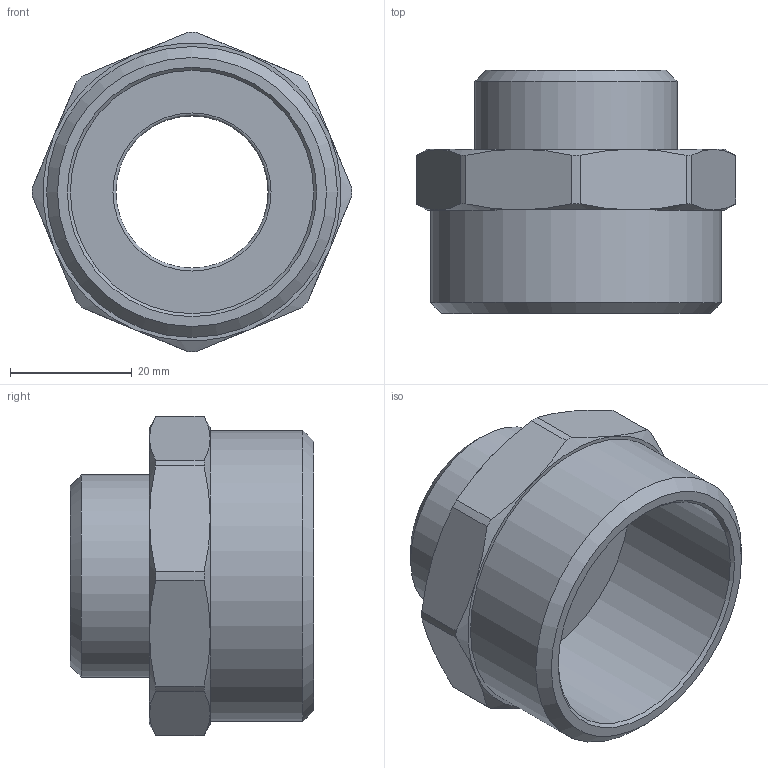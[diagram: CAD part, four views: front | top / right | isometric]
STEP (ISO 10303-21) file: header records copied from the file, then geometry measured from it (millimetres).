
FILE_DESCRIPTION(('STEP AP203'), '1');
FILE_NAME('ÂÐ.753157.009 - VTr.580.N.0806 Íèïïåëü G1 1-2xG1', '2024-07-03T10:20:28', ('Boss'), (''), 'C3D Converter', 'C3D Toolkit', '');
FILE_SCHEMA(('CONFIG_CONTROL_DESIGN'));
Length unit declared in the file: millimetre
Products named in the file (1): ВР.753157.009
Bounding box: 52.5 x 40 x 52.5 mm (x, y, z)
Volume: 23161.1 mm3; surface area: 12346 mm2
Topology: 1 solids, 1 shells, 46 faces, 102 edges, 61 vertices
Faces by surface type: cone 20, plane 13, cylinder 12, torus 1
Full cylindrical faces by diameter (mm): 25 x1, 33.249 x1, 40 x1, 47.803 x1
Entity records: 1989 total; most frequent: CARTESIAN_POINT 1077, DIRECTION 184, ORIENTED_EDGE 170, EDGE_CURVE 85, AXIS2_PLACEMENT_3D 84, VERTEX_POINT 57, EDGE_LOOP 56, ADVANCED_FACE 42
